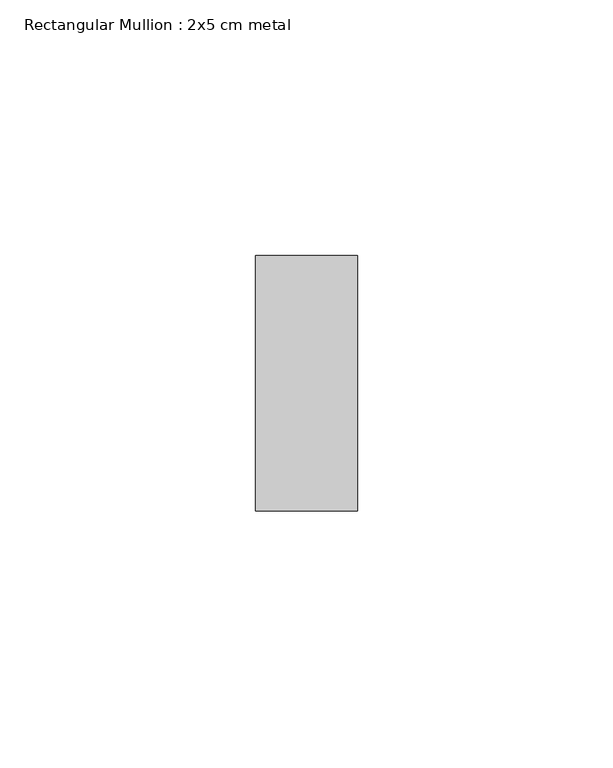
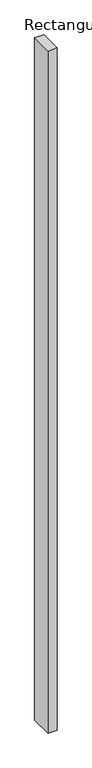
"""IFC4 building model written with IfcOpenShell, lengths in millimetres: member geometry, Rectangular Mullion : 2x5 cm metal."""

from ifc_helpers import new_model, si_unit, frame, origin, place, context, project, spatial, polyline, outline, extrude, source, transform, mapped, element, save


def rectangular_mullion_2x5_cm_metal_7a43f049(model_context):
    return source(origin(), model_context, "Body", "SweptSolid", [
        extrude(outline(polyline([(10.0, 25.0), (10.0, -25.0), (-10.0, -25.0), (-10.0, 25.0), (10.0, 25.0)])), frame((0.0, 0.0, -1580.0), z_axis=(0.0, 0.0, 1.0), x_axis=(1.0, 0.0, 0.0)), (0.0, 0.0, 1.0), 1580.0),
    ])


if __name__ == "__main__":
    model = new_model("IFC4")
    model_context = context("Model", 3, world=origin())
    ifc_project = project(units=[si_unit("LENGTHUNIT", "METRE", prefix="MILLI")], contexts=[model_context])
    site = spatial("IfcSite", under=ifc_project)
    building = spatial("IfcBuilding", under=site)
    placement = place(None, origin())
    rectangular_mullion_2x5_cm_metal_shape = rectangular_mullion_2x5_cm_metal_7a43f049(model_context)
    element("IfcMember", 1, ObjectType="Rectangular Mullion : 2x5 cm metal", at=placement, inside=building, context=model_context, shape_type="MappedRepresentation", body=[
        mapped(rectangular_mullion_2x5_cm_metal_shape, transform((0.0, 0.0, 0.0), x_axis=(1.0, 0.0, 0.0), y_axis=(0.0, 1.0, 0.0), z_axis=(0.0, 0.0, 1.0))),
    ])
    save(model, "model.ifc")
